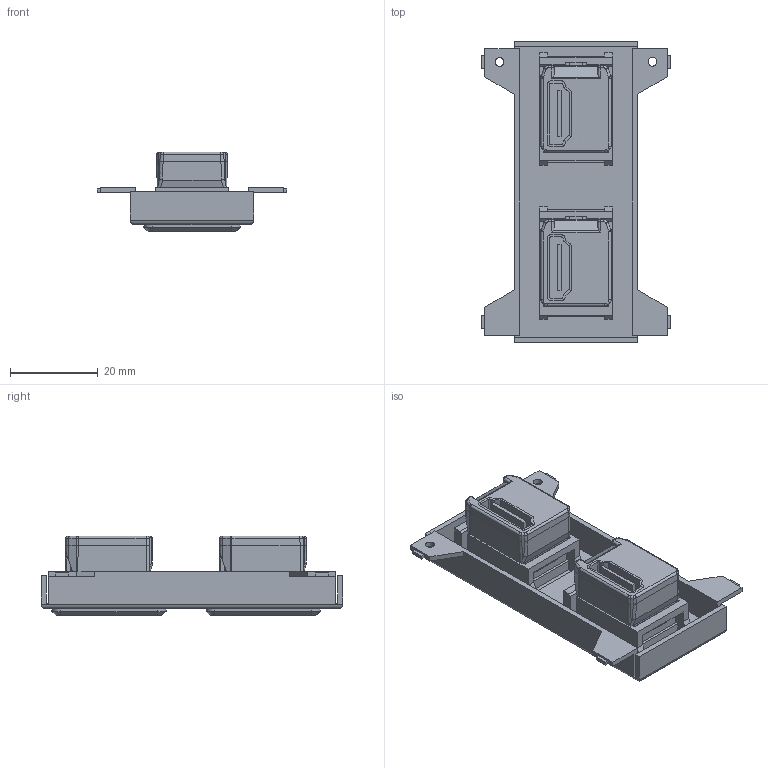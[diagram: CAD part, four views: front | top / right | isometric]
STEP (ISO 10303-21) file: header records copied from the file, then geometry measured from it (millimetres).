
FILE_DESCRIPTION(('FreeCAD Model'),'2;1');
FILE_NAME('Open CASCADE Shape Model','2026-09-15T11:47:39',(''),(''), 'Open CASCADE STEP processor 7.8','FreeCAD','Unknown');
FILE_SCHEMA(('AUTOMOTIVE_DESIGN { 1 0 10303 214 1 1 1 1 }'));
Length unit declared in the file: millimetre
Products named in the file (7): BTK_2SIHDMI_XX; P_201796; P-201796; TB-037_3013BUS12xx_SD; TB-037_3013BUS12xx_SD001; 210HD06G2xx_SD001; 210HD06G2xx_SD
Assembly tree (6 placements, depth 3):
  BTK_2SIHDMI_XX
    P_201796
      P-201796
      TB-037_3013BUS12xx_SD
      TB-037_3013BUS12xx_SD001
    210HD06G2xx_SD001
    210HD06G2xx_SD
Bounding box: 43.2 x 68.7 x 18.2 mm (x, y, z)
Volume: 13612.4 mm3; surface area: 15174.9 mm2
Topology: 5 solids, 5 shells, 561 faces, 1557 edges, 1014 vertices
Faces by surface type: bspline 492, plane 55, cylinder 14
Full cylindrical faces by diameter (mm): 2 x2
Entity records: 26022 total; most frequent: CARTESIAN_POINT 15849, ORIENTED_EDGE 3114, EDGE_CURVE 1557, B_SPLINE_CURVE_WITH_KNOTS 1356, VERTEX_POINT 1014, FACE_BOUND 589, EDGE_LOOP 589, ADVANCED_FACE 561
